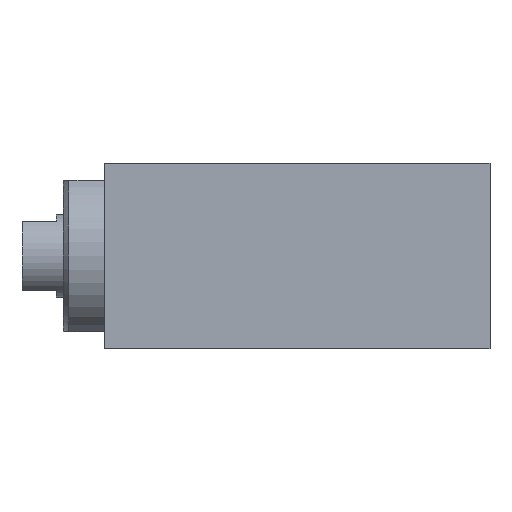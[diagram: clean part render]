
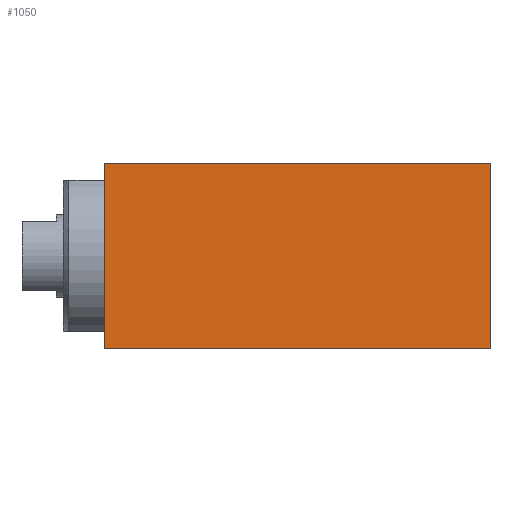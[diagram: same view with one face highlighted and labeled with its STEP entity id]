
A CAD part, front view. The second image highlights one B-rep face of the part: STEP entity #1050.
In plain terms, the highlighted planar face has unit normal (0, -1, 0).
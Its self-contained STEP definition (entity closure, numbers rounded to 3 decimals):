
#35 = VECTOR ( 'NONE', #2229, 1000. ) ;
#102 = CARTESIAN_POINT ( 'NONE',  ( 28., -11.5, -6.75 ) ) ;
#267 = EDGE_CURVE ( 'NONE', #2055, #1405, #2447, .T. ) ;
#301 = EDGE_CURVE ( 'NONE', #2055, #2624, #396, .T. ) ;
#332 = CARTESIAN_POINT ( 'NONE',  ( 28., -11.5, -6.75 ) ) ;
#396 = LINE ( 'NONE', #332, #35 ) ;
#431 = ORIENTED_EDGE ( 'NONE', *, *, #2975, .F. ) ;
#627 = VECTOR ( 'NONE', #1971, 1000. ) ;
#874 = AXIS2_PLACEMENT_3D ( 'NONE', #2125, #2622, #2684 ) ;
#1028 = CARTESIAN_POINT ( 'NONE',  ( 28., -11.5, 6.75 ) ) ;
#1050 = ADVANCED_FACE ( 'NONE', ( #1426 ), #1197, .T. ) ;
#1093 = EDGE_CURVE ( 'NONE', #1405, #2116, #2438, .T. ) ;
#1162 = CARTESIAN_POINT ( 'NONE',  ( 28., -11.5, 6.75 ) ) ;
#1197 = PLANE ( 'NONE',  #874 ) ;
#1283 = CARTESIAN_POINT ( 'NONE',  ( 0., -11.5, -6.75 ) ) ;
#1405 = VERTEX_POINT ( 'NONE', #1162 ) ;
#1426 = FACE_OUTER_BOUND ( 'NONE', #2546, .T. ) ;
#1507 = VECTOR ( 'NONE', #1710, 1000. ) ;
#1710 = DIRECTION ( 'NONE',  ( -1., 0., 0. ) ) ;
#1971 = DIRECTION ( 'NONE',  ( 0., 0., 1. ) ) ;
#2055 = VERTEX_POINT ( 'NONE', #102 ) ;
#2116 = VERTEX_POINT ( 'NONE', #2987 ) ;
#2125 = CARTESIAN_POINT ( 'NONE',  ( 28., -11.5, -6.75 ) ) ;
#2229 = DIRECTION ( 'NONE',  ( -1., 0., 0. ) ) ;
#2247 = LINE ( 'NONE', #1283, #2508 ) ;
#2282 = ORIENTED_EDGE ( 'NONE', *, *, #301, .F. ) ;
#2382 = ORIENTED_EDGE ( 'NONE', *, *, #1093, .T. ) ;
#2416 = ORIENTED_EDGE ( 'NONE', *, *, #267, .T. ) ;
#2438 = LINE ( 'NONE', #1028, #1507 ) ;
#2447 = LINE ( 'NONE', #2643, #627 ) ;
#2465 = DIRECTION ( 'NONE',  ( 0., 0., 1. ) ) ;
#2508 = VECTOR ( 'NONE', #2465, 1000. ) ;
#2546 = EDGE_LOOP ( 'NONE', ( #431, #2282, #2416, #2382 ) ) ;
#2622 = DIRECTION ( 'NONE',  ( 0., -1., 0. ) ) ;
#2624 = VERTEX_POINT ( 'NONE', #2932 ) ;
#2643 = CARTESIAN_POINT ( 'NONE',  ( 28., -11.5, -6.75 ) ) ;
#2684 = DIRECTION ( 'NONE',  ( 1., 0., 0. ) ) ;
#2932 = CARTESIAN_POINT ( 'NONE',  ( 0., -11.5, -6.75 ) ) ;
#2975 = EDGE_CURVE ( 'NONE', #2624, #2116, #2247, .T. ) ;
#2987 = CARTESIAN_POINT ( 'NONE',  ( 0., -11.5, 6.75 ) ) ;
